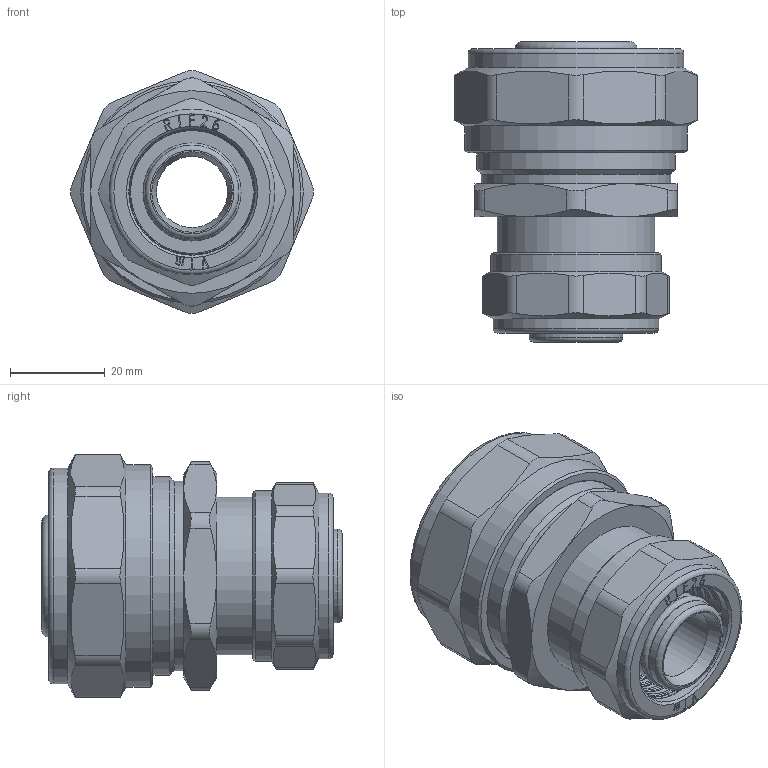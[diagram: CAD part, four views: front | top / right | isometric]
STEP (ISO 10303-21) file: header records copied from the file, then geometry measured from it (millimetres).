
FILE_DESCRIPTION(('STEP AP203'), '1');
FILE_NAME('VTm.303.N.003226', '', ('UNSPECIFIED'), ('UNSPECIFIED'), 'C3D Converter', 'C3D Toolkit', '');
FILE_SCHEMA(('CONFIG_CONTROL_DESIGN'));
Length unit declared in the file: millimetre
Products named in the file (1): ВР.302634.076.000 СБ
Bounding box: 51.3 x 63.5 x 51.3 mm (x, y, z)
Volume: 54040 mm3; surface area: 29991.8 mm2
Topology: 1 solids, 1 shells, 614 faces, 1658 edges, 1090 vertices
Faces by surface type: extrusion 252, plane 195, cylinder 78, torus 58, cone 31
Full cylindrical faces by diameter (mm): 15 x1, 17.4 x4, 19.8 x5, 20 x2, 22.8 x4, 25.8 x5, 26 x1, 26.2 x1, 26.7 x1, 30.292 x1, 32.1 x1, 32.2 x1, 32.7 x1, 33.249 x1, 35 x1, 36 x1, 40 x1, 40.376 x1, 42 x1, 45.5 x1, 47 x1
Entity records: 23356 total; most frequent: CARTESIAN_POINT 9511, ORIENTED_EDGE 3148, DIRECTION 2021, EDGE_CURVE 1574, VERTEX_POINT 1090, B_SPLINE_CURVE_WITH_KNOTS 935, VECTOR 911, EDGE_LOOP 744
